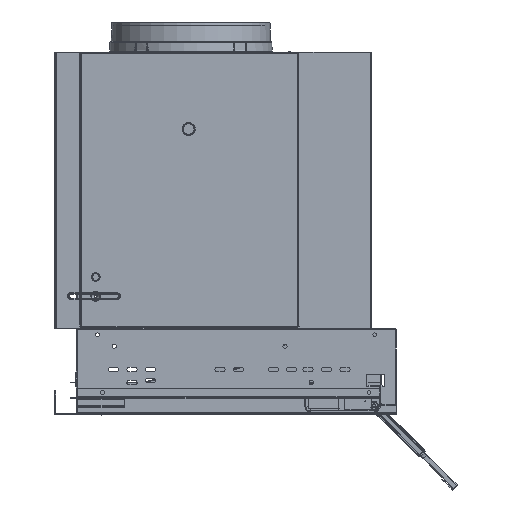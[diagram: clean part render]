
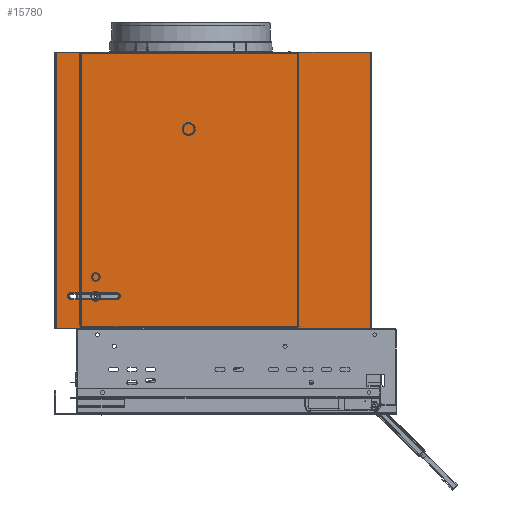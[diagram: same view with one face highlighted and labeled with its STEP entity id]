
A CAD part, front view. The second image highlights one B-rep face of the part: STEP entity #15780.
In plain terms, the highlighted planar face has unit normal (0, -1, 0) as drawn and (-1, 0, 0) by its records, which use the part's own axes.
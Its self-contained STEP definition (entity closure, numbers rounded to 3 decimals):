
#500=FACE_BOUND('',#28312,.T.);
#2480=TRIMMED_CURVE($,#7339,(#162443),(#162444),.T.,.CARTESIAN.);
#2483=TRIMMED_CURVE($,#7342,(#162452),(#162453),.T.,.CARTESIAN.);
#7339=CIRCLE('',#110836,3.326);
#7342=CIRCLE('',#110839,3.326);
#15780=ADVANCED_FACE('',(#21962,#500),#101504,.T.);
#21962=FACE_OUTER_BOUND('',#28311,.T.);
#28311=EDGE_LOOP('',(#44359,#44360,#44361,#44362));
#28312=EDGE_LOOP('',(#44363,#44364,#44365,#44366));
#44359=ORIENTED_EDGE('',*,*,#69891,.F.);
#44360=ORIENTED_EDGE('',*,*,#69896,.F.);
#44361=ORIENTED_EDGE('',*,*,#69895,.F.);
#44362=ORIENTED_EDGE('',*,*,#69894,.F.);
#44363=ORIENTED_EDGE('',*,*,#70002,.F.);
#44364=ORIENTED_EDGE('',*,*,#69897,.F.);
#44365=ORIENTED_EDGE('',*,*,#70005,.F.);
#44366=ORIENTED_EDGE('',*,*,#69898,.F.);
#69891=EDGE_CURVE('',#94270,#94272,#84149,.T.);
#69894=EDGE_CURVE('',#94272,#94273,#84150,.T.);
#69895=EDGE_CURVE('',#94273,#94274,#84151,.T.);
#69896=EDGE_CURVE('',#94274,#94270,#84152,.T.);
#69897=EDGE_CURVE('',#94276,#94277,#84153,.T.);
#69898=EDGE_CURVE('',#94278,#94275,#84154,.T.);
#70002=EDGE_CURVE('',#94277,#94278,#2480,.T.);
#70005=EDGE_CURVE('',#94275,#94276,#2483,.T.);
#84149=B_SPLINE_CURVE_WITH_KNOTS('',1,(#162182,#162183),.UNSPECIFIED.,.F.,
 .F.,(2,2),(-259.,0.),.UNSPECIFIED.);
#84150=B_SPLINE_CURVE_WITH_KNOTS('',1,(#162190,#162191),.UNSPECIFIED.,.F.,
 .F.,(2,2),(0.,294.2),.UNSPECIFIED.);
#84151=B_SPLINE_CURVE_WITH_KNOTS('',1,(#162192,#162193),.UNSPECIFIED.,.F.,
 .F.,(2,2),(0.,259.),.UNSPECIFIED.);
#84152=B_SPLINE_CURVE_WITH_KNOTS('',1,(#162194,#162195),.UNSPECIFIED.,.F.,
 .F.,(2,2),(0.,294.2),.UNSPECIFIED.);
#84153=B_SPLINE_CURVE_WITH_KNOTS('',1,(#162196,#162197),.UNSPECIFIED.,.F.,
 .F.,(2,2),(0.,43.),.UNSPECIFIED.);
#84154=B_SPLINE_CURVE_WITH_KNOTS('',1,(#162198,#162199),.UNSPECIFIED.,.F.,
 .F.,(2,2),(0.,43.),.UNSPECIFIED.);
#94270=VERTEX_POINT('',#162062);
#94272=VERTEX_POINT('',#162064);
#94273=VERTEX_POINT('',#162065);
#94274=VERTEX_POINT('',#162066);
#94275=VERTEX_POINT('',#162067);
#94276=VERTEX_POINT('',#162068);
#94277=VERTEX_POINT('',#162069);
#94278=VERTEX_POINT('',#162070);
#101504=PLANE('',#110742);
#110742=AXIS2_PLACEMENT_3D('',#161128,#122528,$);
#110836=AXIS2_PLACEMENT_3D($,#162442,#122662,#122663);
#110839=AXIS2_PLACEMENT_3D($,#162451,#122668,#122669);
#122528=DIRECTION('',(-1.,0.,0.));
#122662=DIRECTION('',(-1.,0.,0.));
#122663=DIRECTION('',(0.,-1.,0.));
#122668=DIRECTION('',(-1.,0.,0.));
#122669=DIRECTION('',(0.,1.,0.));
#161128=CARTESIAN_POINT('',(-151.,284.906,28.026));
#162062=CARTESIAN_POINT('',(-151.,259.,-1.4));
#162064=CARTESIAN_POINT('',(-151.,0.,-1.4));
#162065=CARTESIAN_POINT('',(-151.,0.,-295.6));
#162066=CARTESIAN_POINT('',(-151.,259.,-295.6));
#162067=CARTESIAN_POINT('',(-151.,33.326,-282.));
#162068=CARTESIAN_POINT('',(-151.,26.674,-282.));
#162069=CARTESIAN_POINT('',(-151.,26.674,-239.));
#162070=CARTESIAN_POINT('',(-151.,33.326,-239.));
#162182=CARTESIAN_POINT('',(-151.,259.,-1.4));
#162183=CARTESIAN_POINT('',(-151.,0.,-1.4));
#162190=CARTESIAN_POINT('',(-151.,0.,-1.4));
#162191=CARTESIAN_POINT('',(-151.,0.,-295.6));
#162192=CARTESIAN_POINT('',(-151.,0.,-295.6));
#162193=CARTESIAN_POINT('',(-151.,259.,-295.6));
#162194=CARTESIAN_POINT('',(-151.,259.,-295.6));
#162195=CARTESIAN_POINT('',(-151.,259.,-1.4));
#162196=CARTESIAN_POINT('',(-151.,26.674,-282.));
#162197=CARTESIAN_POINT('',(-151.,26.674,-239.));
#162198=CARTESIAN_POINT('',(-151.,33.326,-239.));
#162199=CARTESIAN_POINT('',(-151.,33.326,-282.));
#162442=CARTESIAN_POINT('',(-151.,30.,-239.));
#162443=CARTESIAN_POINT('',(-151.,26.674,-239.));
#162444=CARTESIAN_POINT('',(-151.,33.326,-239.));
#162451=CARTESIAN_POINT('',(-151.,30.,-282.));
#162452=CARTESIAN_POINT('',(-151.,33.326,-282.));
#162453=CARTESIAN_POINT('',(-151.,26.674,-282.));
